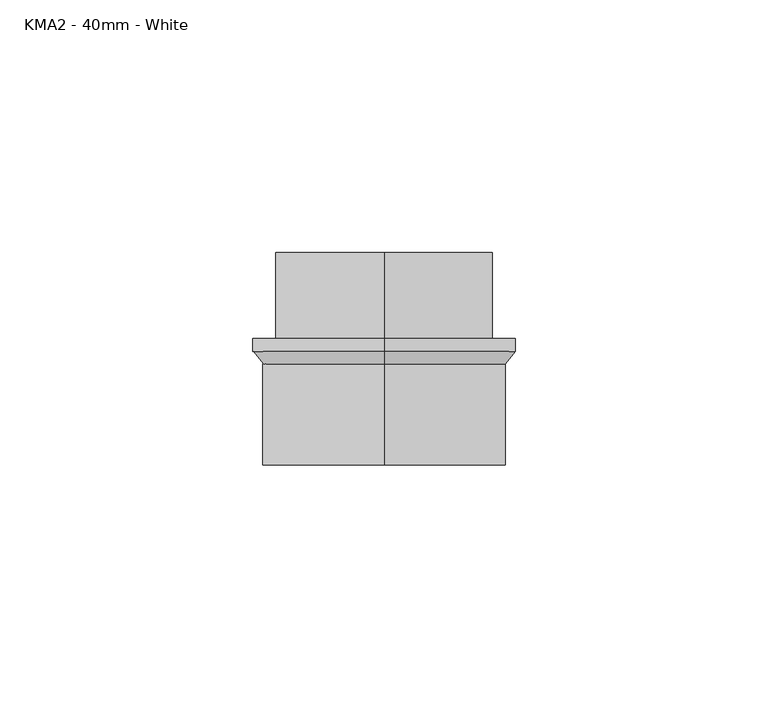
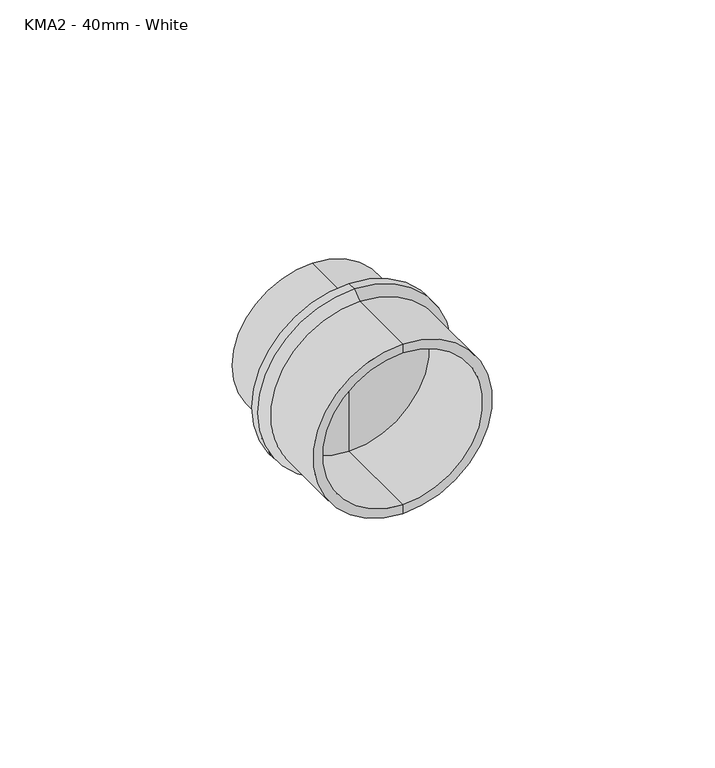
"""IFC4 building model written with IfcOpenShell, lengths in millimetres: pipe fitting geometry, MarleyPlumbingAndDrainage_PipeFitting_MaleIronAdaptor : KMA2 - 40mm - White."""

from ifc_helpers import new_model, si_unit, frame, origin, place, context, project, spatial, polyline, circle_curve, source, transform, mapped, element, save
from ifc_brep_helpers import plane_surface, cylinder_surface, revolved_surface, advanced_brep


def kma2_40mm_white_9f97f819(model_context):
    return source(origin(), model_context, "Body", "AdvancedBrep", [
        advanced_brep(
        [(-14.8253818, 0.0, 0.0), (-14.8253818, 0.0, 21.5), (-14.8253818, 0.0, -21.5), (-14.8253818, 17.0, -21.5), (-14.8253818, 17.0, 21.5), (-14.8253818, 17.0, 0.0)],
        [
            (0, 1),
            (1, 2, circle_curve(frame((-14.8253818, 0.0, 0.0), z_axis=(0.0, -1.0, 0.0), x_axis=(0.0, 0.0, 1.0)), 21.5)),
            (2, 0),
            (2, 1, circle_curve(frame((-14.8253818, 0.0, 0.0), z_axis=(0.0, -1.0, 0.0), x_axis=(0.0, 0.0, 1.0)), 21.5)),
            (3, 4, circle_curve(frame((-14.8253818, 17.0, 0.0), z_axis=(0.0, 1.0, 0.0), x_axis=(0.0, 0.0, 1.0)), 21.5)),
            (4, 5),
            (5, 3),
            (4, 3, circle_curve(frame((-14.8253818, 17.0, 0.0), z_axis=(0.0, 1.0, 0.0), x_axis=(0.0, 0.0, 1.0)), 21.5)),
            (1, 4),
            (3, 2),
        ],
        [
            plane_surface(frame((-14.8253818, 0.0, 0.0), z_axis=(0.0, -1.0, 0.0), x_axis=(0.0, 0.0, 1.0))),
            plane_surface(frame((-14.8253818, 17.0, 0.0), z_axis=(0.0, 1.0, 0.0), x_axis=(0.0, 0.0, 1.0))),
            cylinder_surface(frame((-14.8253818, 1442.4208958, 0.0), z_axis=(0.0, -1.0, 0.0), x_axis=(0.0, 0.0, 1.0)), 21.5),
        ],
        [
            (0, [[1, 2, 3]]),
            (0, [[-3, 4, -1]]),
            (1, [[5, 6, 7]]),
            (1, [[8, -7, -6]]),
            (2, [[-2, 9, -5, 10]]),
            (2, [[-4, -10, -8, -9]]),
        ],
    ),
        advanced_brep(
        [(-14.8253818, -25.0, -21.5), (-14.8253818, -25.0, 21.5), (-14.8253818, -25.0, 24.0), (-14.8253818, -25.0, -24.0), (-14.8253818, 0.0, -21.5), (-14.8253818, 0.0, 21.5), (-14.8253818, 0.0, -26.0), (-14.8253818, 0.0, 26.0), (-14.8253818, -2.5, -26.0), (-14.8253818, -2.5, 26.0), (-14.8253818, -5.0, -24.0), (-14.8253818, -5.0, 24.0)],
        [
            (0, 1, circle_curve(frame((-14.8253818, -25.0, 0.0), z_axis=(0.0, 1.0, 0.0), x_axis=(0.0, 0.0, 1.0)), 21.5)),
            (1, 2),
            (2, 3, circle_curve(frame((-14.8253818, -25.0, 0.0), z_axis=(0.0, -1.0, 0.0), x_axis=(0.0, 0.0, 1.0)), 24.0)),
            (3, 0),
            (1, 0, circle_curve(frame((-14.8253818, -25.0, 0.0), z_axis=(0.0, 1.0, 0.0), x_axis=(0.0, 0.0, 1.0)), 21.5)),
            (3, 2, circle_curve(frame((-14.8253818, -25.0, 0.0), z_axis=(0.0, -1.0, 0.0), x_axis=(0.0, 0.0, 1.0)), 24.0)),
            (4, 5, circle_curve(frame((-14.8253818, 0.0, 0.0), z_axis=(0.0, 1.0, 0.0), x_axis=(0.0, 0.0, 1.0)), 21.5)),
            (5, 1),
            (0, 4),
            (5, 4, circle_curve(frame((-14.8253818, 0.0, 0.0), z_axis=(0.0, 1.0, 0.0), x_axis=(0.0, 0.0, 1.0)), 21.5)),
            (6, 7, circle_curve(frame((-14.8253818, 0.0, 0.0), z_axis=(0.0, 1.0, 0.0), x_axis=(0.0, 0.0, 1.0)), 26.0)),
            (7, 5),
            (4, 6),
            (7, 6, circle_curve(frame((-14.8253818, 0.0, 0.0), z_axis=(0.0, 1.0, 0.0), x_axis=(0.0, 0.0, 1.0)), 26.0)),
            (8, 9, circle_curve(frame((-14.8253818, -2.5, 0.0), z_axis=(0.0, 1.0, 0.0), x_axis=(0.0, 0.0, 1.0)), 26.0)),
            (9, 7),
            (6, 8),
            (9, 8, circle_curve(frame((-14.8253818, -2.5, 0.0), z_axis=(0.0, 1.0, 0.0), x_axis=(0.0, 0.0, 1.0)), 26.0)),
            (10, 11, circle_curve(frame((-14.8253818, -5.0, 0.0), z_axis=(0.0, 1.0, 0.0), x_axis=(0.0, 0.0, 1.0)), 24.0)),
            (11, 9),
            (8, 10),
            (11, 10, circle_curve(frame((-14.8253818, -5.0, 0.0), z_axis=(0.0, 1.0, 0.0), x_axis=(0.0, 0.0, 1.0)), 24.0)),
            (2, 11),
            (10, 3),
        ],
        [
            plane_surface(frame((-14.8253818, -25.0, 0.0), z_axis=(0.0, -1.0, 0.0), x_axis=(0.0, 0.0, 1.0))),
            revolved_surface(polyline([(-14.8253818, -25.0, 21.5), (-14.8253818, 0.0, 21.5)]), (-14.8253818, 1632.5437807, 0.0), (0.0, -1.0, 0.0)),
            plane_surface(frame((-14.8253818, 0.0, 0.0), z_axis=(0.0, 1.0, 0.0), x_axis=(0.0, 0.0, 1.0))),
            cylinder_surface(frame((-14.8253818, 1632.5437807, 0.0), z_axis=(0.0, -1.0, 0.0), x_axis=(0.0, 0.0, 1.0)), 26.0),
            revolved_surface(polyline([(-14.8253818, -2.5, 26.0), (-14.8253818, -5.0, 24.0)]), (-14.8253818, 1632.5437807, 0.0), (0.0, -1.0, 0.0)),
            cylinder_surface(frame((-14.8253818, 1632.5437807, 0.0), z_axis=(0.0, -1.0, 0.0), x_axis=(0.0, 0.0, 1.0)), 24.0),
        ],
        [
            (0, [[1, 2, 3, 4]]),
            (0, [[5, -4, 6, -2]]),
            (1, [[7, 8, -1, 9]]),
            (1, [[10, -9, -5, -8]]),
            (2, [[11, 12, -7, 13]]),
            (2, [[14, -13, -10, -12]]),
            (3, [[15, 16, -11, 17]]),
            (3, [[18, -17, -14, -16]]),
            (4, [[19, 20, -15, 21]]),
            (4, [[22, -21, -18, -20]]),
            (5, [[-3, 23, -19, 24]]),
            (5, [[-6, -24, -22, -23]]),
        ],
    ),
    ])


if __name__ == "__main__":
    model = new_model("IFC4")
    model_context = context("Model", 3, world=origin())
    ifc_project = project(units=[si_unit("LENGTHUNIT", "METRE", prefix="MILLI")], contexts=[model_context])
    site = spatial("IfcSite", under=ifc_project)
    building = spatial("IfcBuilding", under=site)
    placement = place(None, origin())
    kma2_40mm_white_shape = kma2_40mm_white_9f97f819(model_context)
    element("IfcPipeFitting", 1, ObjectType="MarleyPlumbingAndDrainage_PipeFitting_MaleIronAdaptor : KMA2 - 40mm - White", at=placement, inside=building, context=model_context, shape_type="MappedRepresentation", body=[
        mapped(kma2_40mm_white_shape, transform((0.0, 0.0, 0.0), x_axis=(1.0, 0.0, 0.0), y_axis=(0.0, 1.0, 0.0), z_axis=(0.0, 0.0, 1.0))),
    ])
    save(model, "model.ifc")
